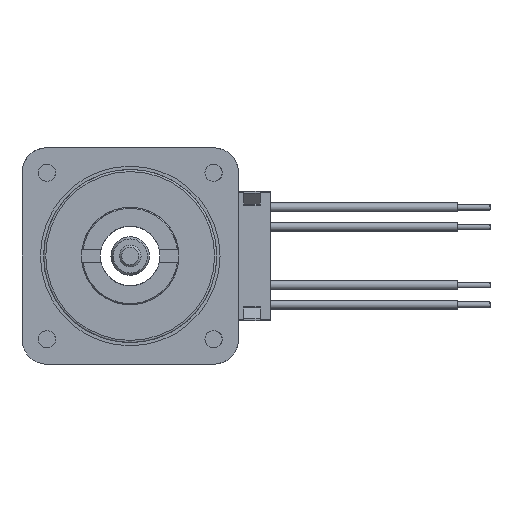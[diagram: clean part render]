
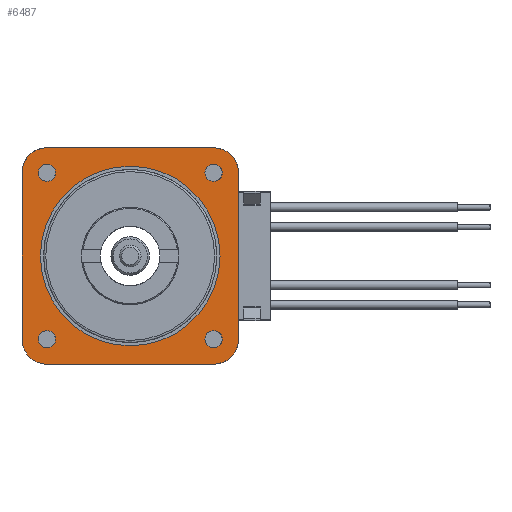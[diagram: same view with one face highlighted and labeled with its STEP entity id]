
A CAD part, left-side view. The second image highlights one B-rep face of the part: STEP entity #6487.
In plain terms, the highlighted planar face has unit normal (-1, 0, 0).
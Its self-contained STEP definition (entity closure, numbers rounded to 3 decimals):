
#6357=CARTESIAN_POINT('',(0.,0.,0.));
#6358=DIRECTION('',(0.,1.,0.));
#6359=DIRECTION('',(-1.,0.,-0.));
#6360=AXIS2_PLACEMENT_3D('',#6357,#6359,#6358);
#6361=PLANE('',#6360);
#6362=CARTESIAN_POINT('',(0.,7.7,-10.));
#6363=VERTEX_POINT('',#6362);
#6364=CARTESIAN_POINT('',(0.,-7.7,-10.));
#6365=VERTEX_POINT('',#6364);
#6366=CARTESIAN_POINT('',(0.,7.7,-10.));
#6367=DIRECTION('',(0.,-1.,0.));
#6368=VECTOR('',#6367,15.4);
#6369=LINE('',#6366,#6368);
#6370=EDGE_CURVE('',#6363,#6365,#6369,.T.);
#6371=ORIENTED_EDGE('E605',*,*,#6370,.T.);
#6372=CARTESIAN_POINT('',(0.,-10.,-7.7));
#6373=VERTEX_POINT('',#6372);
#6374=CARTESIAN_POINT('',(0.,-7.7,-7.7));
#6375=DIRECTION('',(0.,0.,-1.));
#6376=DIRECTION('',(-1.,0.,0.));
#6377=AXIS2_PLACEMENT_3D('',#6374,#6376,#6375);
#6378=CIRCLE('',#6377,2.3);
#6379=EDGE_CURVE('',#6365,#6373,#6378,.T.);
#6380=ORIENTED_EDGE('E606',*,*,#6379,.T.);
#6381=CARTESIAN_POINT('',(0.,-10.,7.7));
#6382=VERTEX_POINT('',#6381);
#6383=CARTESIAN_POINT('',(0.,-10.,-7.7));
#6384=DIRECTION('',(0.,0.,1.));
#6385=VECTOR('',#6384,15.4);
#6386=LINE('',#6383,#6385);
#6387=EDGE_CURVE('',#6373,#6382,#6386,.T.);
#6388=ORIENTED_EDGE('E607',*,*,#6387,.T.);
#6389=CARTESIAN_POINT('',(0.,-7.7,10.));
#6390=VERTEX_POINT('',#6389);
#6391=CARTESIAN_POINT('',(0.,-7.7,7.7));
#6392=DIRECTION('',(0.,-1.,0.));
#6393=DIRECTION('',(-1.,0.,0.));
#6394=AXIS2_PLACEMENT_3D('',#6391,#6393,#6392);
#6395=CIRCLE('',#6394,2.3);
#6396=EDGE_CURVE('',#6382,#6390,#6395,.T.);
#6397=ORIENTED_EDGE('E608',*,*,#6396,.T.);
#6398=CARTESIAN_POINT('',(0.,7.7,10.));
#6399=VERTEX_POINT('',#6398);
#6400=CARTESIAN_POINT('',(0.,-7.7,10.));
#6401=DIRECTION('',(0.,1.,0.));
#6402=VECTOR('',#6401,15.4);
#6403=LINE('',#6400,#6402);
#6404=EDGE_CURVE('',#6390,#6399,#6403,.T.);
#6405=ORIENTED_EDGE('E609',*,*,#6404,.T.);
#6406=CARTESIAN_POINT('',(0.,10.,7.7));
#6407=VERTEX_POINT('',#6406);
#6408=CARTESIAN_POINT('',(0.,7.7,7.7));
#6409=DIRECTION('',(0.,0.,1.));
#6410=DIRECTION('',(-1.,0.,0.));
#6411=AXIS2_PLACEMENT_3D('',#6408,#6410,#6409);
#6412=CIRCLE('',#6411,2.3);
#6413=EDGE_CURVE('',#6399,#6407,#6412,.T.);
#6414=ORIENTED_EDGE('E610',*,*,#6413,.T.);
#6415=CARTESIAN_POINT('',(0.,10.,-7.7));
#6416=VERTEX_POINT('',#6415);
#6417=CARTESIAN_POINT('',(0.,10.,7.7));
#6418=DIRECTION('',(0.,0.,-1.));
#6419=VECTOR('',#6418,15.4);
#6420=LINE('',#6417,#6419);
#6421=EDGE_CURVE('',#6407,#6416,#6420,.T.);
#6422=ORIENTED_EDGE('E611',*,*,#6421,.T.);
#6423=CARTESIAN_POINT('',(0.,7.7,-7.7));
#6424=DIRECTION('',(0.,1.,0.));
#6425=DIRECTION('',(-1.,0.,0.));
#6426=AXIS2_PLACEMENT_3D('',#6423,#6425,#6424);
#6427=CIRCLE('',#6426,2.3);
#6428=EDGE_CURVE('',#6416,#6363,#6427,.T.);
#6429=ORIENTED_EDGE('E612',*,*,#6428,.T.);
#6430=EDGE_LOOP('',(#6371,#6380,#6388,#6397,#6405,#6414,#6422,#6429));
#6431=FACE_OUTER_BOUND('',#6430,.T.);
#6432=CARTESIAN_POINT('',(0.,8.3,0.));
#6433=VERTEX_POINT('',#6432);
#6434=CARTESIAN_POINT('',(0.,0.,0.));
#6435=DIRECTION('',(-0.,1.,0.));
#6436=DIRECTION('',(1.,0.,-0.));
#6437=AXIS2_PLACEMENT_3D('',#6434,#6436,#6435);
#6438=CIRCLE('',#6437,8.3);
#6439=EDGE_CURVE('',#6433,#6433,#6438,.T.);
#6440=ORIENTED_EDGE('E613',*,*,#6439,.T.);
#6441=EDGE_LOOP('',(#6440));
#6442=FACE_BOUND('',#6441,.T.);
#6443=CARTESIAN_POINT('',(0.,-7.7,8.5));
#6444=VERTEX_POINT('',#6443);
#6445=CARTESIAN_POINT('',(0.,-7.7,7.7));
#6446=DIRECTION('',(-0.,-0.,1.));
#6447=DIRECTION('',(1.,0.,0.));
#6448=AXIS2_PLACEMENT_3D('',#6445,#6447,#6446);
#6449=CIRCLE('',#6448,0.8);
#6450=EDGE_CURVE('',#6444,#6444,#6449,.T.);
#6451=ORIENTED_EDGE('E614',*,*,#6450,.T.);
#6452=EDGE_LOOP('',(#6451));
#6453=FACE_BOUND('',#6452,.T.);
#6454=CARTESIAN_POINT('',(0.,7.7,8.5));
#6455=VERTEX_POINT('',#6454);
#6456=CARTESIAN_POINT('',(0.,7.7,7.7));
#6457=DIRECTION('',(-0.,-0.,1.));
#6458=DIRECTION('',(1.,0.,0.));
#6459=AXIS2_PLACEMENT_3D('',#6456,#6458,#6457);
#6460=CIRCLE('',#6459,0.8);
#6461=EDGE_CURVE('',#6455,#6455,#6460,.T.);
#6462=ORIENTED_EDGE('E615',*,*,#6461,.T.);
#6463=EDGE_LOOP('',(#6462));
#6464=FACE_BOUND('',#6463,.T.);
#6465=CARTESIAN_POINT('',(0.,-7.7,-6.9));
#6466=VERTEX_POINT('',#6465);
#6467=CARTESIAN_POINT('',(0.,-7.7,-7.7));
#6468=DIRECTION('',(-0.,0.,1.));
#6469=DIRECTION('',(1.,0.,0.));
#6470=AXIS2_PLACEMENT_3D('',#6467,#6469,#6468);
#6471=CIRCLE('',#6470,0.8);
#6472=EDGE_CURVE('',#6466,#6466,#6471,.T.);
#6473=ORIENTED_EDGE('E616',*,*,#6472,.T.);
#6474=EDGE_LOOP('',(#6473));
#6475=FACE_BOUND('',#6474,.T.);
#6476=CARTESIAN_POINT('',(0.,7.7,-6.9));
#6477=VERTEX_POINT('',#6476);
#6478=CARTESIAN_POINT('',(0.,7.7,-7.7));
#6479=DIRECTION('',(-0.,0.,1.));
#6480=DIRECTION('',(1.,0.,0.));
#6481=AXIS2_PLACEMENT_3D('',#6478,#6480,#6479);
#6482=CIRCLE('',#6481,0.8);
#6483=EDGE_CURVE('',#6477,#6477,#6482,.T.);
#6484=ORIENTED_EDGE('E617',*,*,#6483,.T.);
#6485=EDGE_LOOP('',(#6484));
#6486=FACE_BOUND('',#6485,.T.);
#6487=ADVANCED_FACE('F182',(#6431,#6442,#6453,#6464,#6475,#6486),#6361,.T.);
